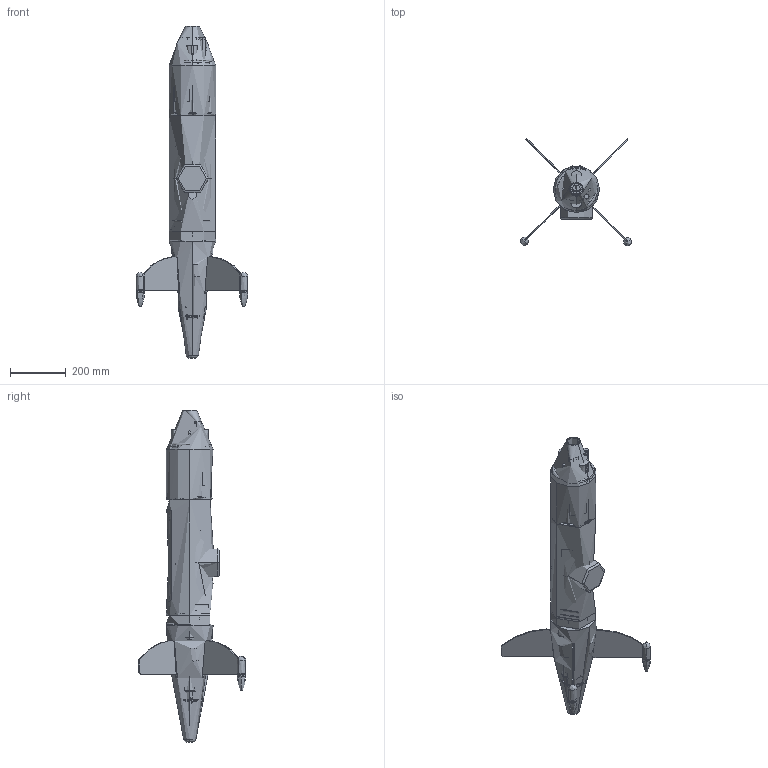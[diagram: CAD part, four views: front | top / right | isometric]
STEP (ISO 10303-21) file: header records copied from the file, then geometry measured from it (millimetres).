
FILE_DESCRIPTION (( 'STEP AP203' ), '1' );
FILE_NAME ('towbody with benthos modem.STEP', '2014-09-12T21:46:50', ( 'Ernie' ), ( '' ), 'SwSTEP 2.0', 'SolidWorks 2014', '' );
FILE_SCHEMA (( 'CONFIG_CONTROL_DESIGN' ));
Length unit declared in the file: millimetre
Products named in the file (427): 03134; 02581; 01243; 02518-XX-XXX_M5x0.8, 20mm; RESC1608X55N_5512_6; WURTH_11477667_140005; RESC2012X65N_6502_1; 02587-XX; 02517-XX-XXX; COPPER_PHV-5R4V505-R_110007_6; 02543-XX; 06099; 02516-XX-XXX; 06239_mass model; 02580; RESC2012X50N_5004_1; 00068; 06106_94150A355; 06088; 02543-XX_M4; 02522-XXX_AS568-114, 15.5mm ID, 2.61mm THK; RES_KEL_1224_OHMITE_7010_1; 03878; 06086_initial assembly; 06076; CAPC2012X70N_7010_1; SOT95P280X145-6N_14503_1; 03521; BOARD_6; TERMINAL_SCREW_38100_1; 03871; CAPC2012X100N_10008_6; SOT65P210X110-3N_10998_6; SOT95P237X112-3N_11201_1; 02875; 03138; DIOM1608X85N_6502_1; 06100; TO508P1229X279-3N_27889_1; 00855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
Assembly tree (329 placements, depth 5):
  02581
  01243
  RESC1608X55N_5512_6
  RESC2012X65N_6502_1
  02587-XX
Bounding box: 398.73 x 384.43 x 1186.33 mm (x, y, z)
Volume: 14558386.3 mm3; surface area: 2478895.9 mm2
Topology: 319 solids, 319 shells, 6858 faces, 16279 edges, 10211 vertices
Faces by surface type: plane 3055, cylinder 2275, cone 861, bspline 368, torus 270, sphere 29
Entity records: 156716 total; most frequent: CARTESIAN_POINT 43980, DIRECTION 15492, ORIENTED_EDGE 14464, EDGE_CURVE 7232, AXIS2_PLACEMENT_3D 6078, VERTEX_POINT 4547, PERSON_AND_ORGANIZATION 3745, EDGE_LOOP 3469
